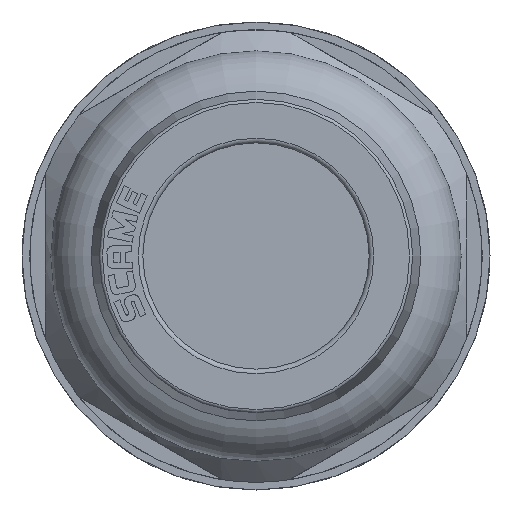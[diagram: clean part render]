
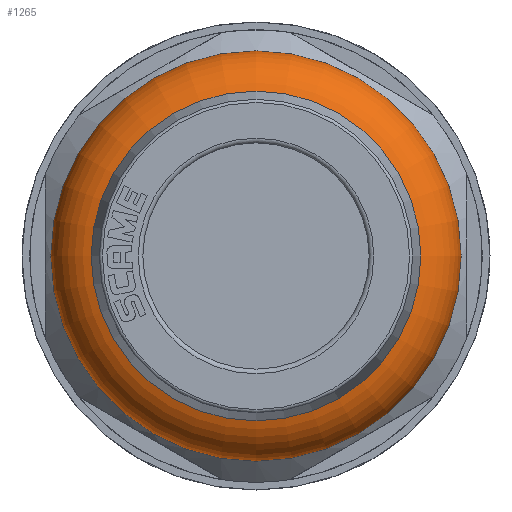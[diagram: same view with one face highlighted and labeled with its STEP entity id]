
A CAD part, left-side view. The second image highlights one B-rep face of the part: STEP entity #1265.
In plain terms, the highlighted toroidal (fillet/blend) face has major radius 9.65 mm and minor radius 3.505 mm.
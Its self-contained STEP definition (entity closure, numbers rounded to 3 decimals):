
#49=TOROIDAL_SURFACE('',#4099,9.65,3.505);
#943=FACE_BOUND('',#1650,.T.);
#944=FACE_BOUND('',#1651,.T.);
#1265=ADVANCED_FACE('',(#943,#944),#49,.T.);
#1650=EDGE_LOOP('',(#2159));
#1651=EDGE_LOOP('',(#2160));
#2159=ORIENTED_EDGE('',*,*,#3487,.F.);
#2160=ORIENTED_EDGE('',*,*,#3483,.T.);
#2926=VERTEX_POINT('',#6407);
#2930=VERTEX_POINT('',#6418);
#3483=EDGE_CURVE('',#2926,#2926,#3878,.T.);
#3487=EDGE_CURVE('',#2930,#2930,#3882,.T.);
#3878=CIRCLE('',#4091,10.568);
#3882=CIRCLE('',#4098,13.15);
#4091=AXIS2_PLACEMENT_3D('',#6406,#4679,#4680);
#4098=AXIS2_PLACEMENT_3D('',#6417,#4693,#4694);
#4099=AXIS2_PLACEMENT_3D('',#6419,#4695,#4696);
#4679=DIRECTION('',(1.,0.,0.));
#4680=DIRECTION('',(0.,0.,-1.));
#4693=DIRECTION('',(1.,0.,0.));
#4694=DIRECTION('',(0.,0.,-1.));
#4695=DIRECTION('',(1.,0.,0.));
#4696=DIRECTION('',(0.,0.,-1.));
#6406=CARTESIAN_POINT('',(-39.382,0.,0.));
#6407=CARTESIAN_POINT('',(-39.382,0.,-10.568));
#6417=CARTESIAN_POINT('',(-35.816,0.,0.));
#6418=CARTESIAN_POINT('',(-35.816,0.,-13.15));
#6419=CARTESIAN_POINT('',(-36.,0.,0.));
